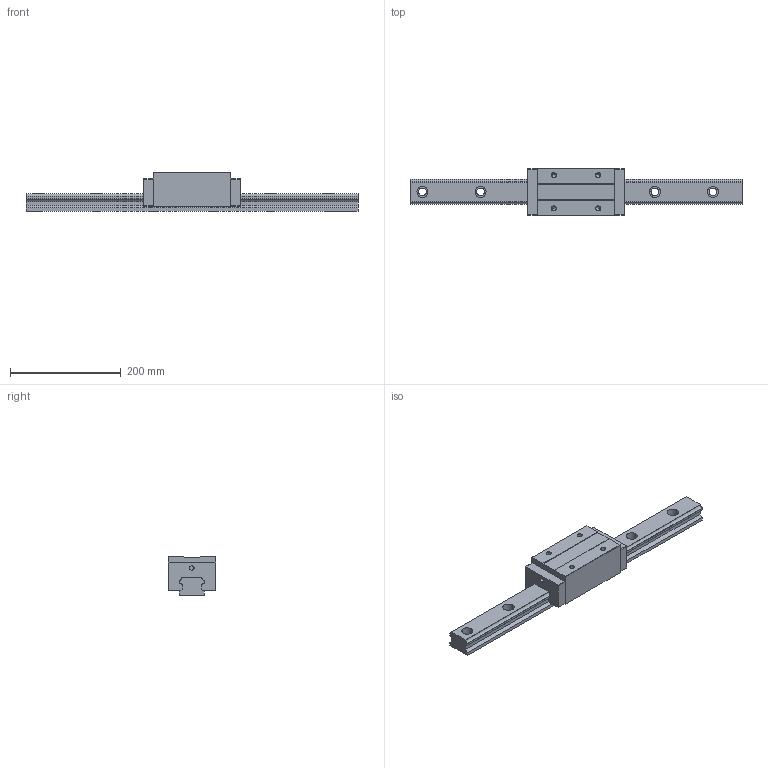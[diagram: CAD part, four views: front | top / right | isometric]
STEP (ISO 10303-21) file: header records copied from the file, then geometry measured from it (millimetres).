
FILE_DESCRIPTION (( 'STEP AP203' ), '1' );
FILE_NAME ('TRH45VE-XN.STEP', '2023-01-30T06:31:23', ( '' ), ( '' ), 'SwSTEP 2.0', 'SolidWorks 2019', '' );
FILE_SCHEMA (( 'CONFIG_CONTROL_DESIGN' ));
Length unit declared in the file: millimetre
Products named in the file (1): TRH45VE-XN
Bounding box: 600 x 85.5 x 70 mm (x, y, z)
Volume: 1423215.9 mm3; surface area: 189992.5 mm2
Topology: 4 solids, 4 shells, 152 faces, 392 edges, 252 vertices
Faces by surface type: plane 80, cylinder 56, cone 16
Entity records: 4667 total; most frequent: DIRECTION 810, CARTESIAN_POINT 789, ORIENTED_EDGE 768, EDGE_CURVE 384, AXIS2_PLACEMENT_3D 273, VECTOR 264, LINE 264, VERTEX_POINT 252
